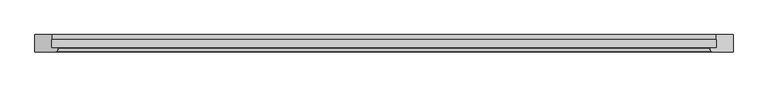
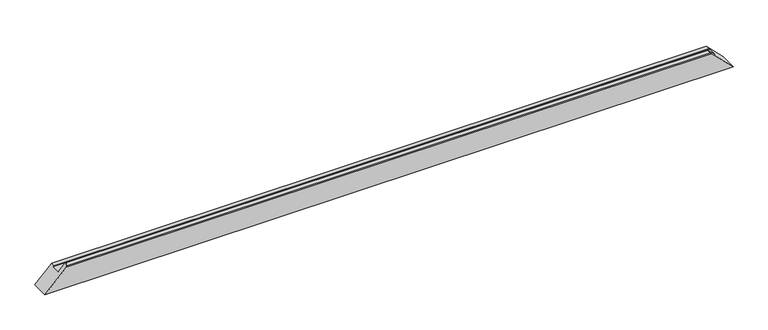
"""IFC4 building model written with IfcOpenShell, lengths in millimetres: proxy geometry, Weiku - Montante - Caixilho 02.2.01.005 : Weiku - Montante - Caixilho 02.2.01.005."""

from ifc_helpers import new_model, si_unit, frame, origin, place, context, project, spatial, ellipse_curve, source, transform, mapped, element, save
from ifc_brep_helpers import plane_surface, cylinder_surface, advanced_brep


def generic_models_e768f041(model_context):
    return source(origin(), model_context, "Body", "AdvancedBrep", [
        advanced_brep(
        [(-949.0, 12.5, 46.0), (-928.8909676, 12.5, 66.1090324), (928.8909676, 12.5, 66.1090324), (949.0, 12.5, 46.0), (-949.0, 37.8314286, 46.0), (949.0, 37.8314286, 46.0), (-946.0, 37.027581, 49.0), (946.0, 37.027581, 49.0), (-946.0, 50.0, 49.0), (946.0, 50.0, 49.0), (995.0, 50.0, 0.0), (-995.0, 50.0, 0.0), (995.0, 0.0, 0.0), (-995.0, 0.0, 0.0), (933.4997332, 0.0, 61.5002668), (-933.4997332, 0.0, 61.5002668), (-928.118227, 11.4929448, 66.881773), (-930.6019557, 2.2235429, 64.3980443), (930.6019557, 2.2235429, 64.3980443), (928.118227, 11.4929448, 66.881773)],
        [
            (0, 1),
            (1, 2),
            (2, 3),
            (3, 0),
            (4, 0),
            (3, 5),
            (5, 4),
            (6, 4),
            (5, 7),
            (7, 6),
            (8, 6),
            (7, 9),
            (9, 8),
            (10, 11),
            (11, 8),
            (9, 10),
            (10, 12),
            (12, 13),
            (13, 11),
            (12, 14),
            (14, 15),
            (15, 13),
            (16, 17),
            (17, 18),
            (18, 19),
            (19, 16),
            (15, 17, ellipse_curve(frame((-933.4997332, 3.0, 61.5002668), z_axis=(-0.707106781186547, 0.0, 0.707106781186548), x_axis=(-0.7071067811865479, 0.0, -0.707106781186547)), 4.2426407, 3.0)),
            (16, 1, ellipse_curve(frame((-928.8909676, 11.7, 66.1090324), z_axis=(-0.707106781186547, 0.0, 0.707106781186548), x_axis=(-0.7071067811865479, 0.0, -0.707106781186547)), 1.1313708, 0.8)),
            (2, 19, ellipse_curve(frame((928.8909676, 11.7, 66.1090324), z_axis=(0.7071067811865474, 0.0, 0.7071067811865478), x_axis=(-0.7071067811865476, 0.0, 0.7071067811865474)), 1.1313708, 0.8)),
            (18, 14, ellipse_curve(frame((933.4997332, 3.0, 61.5002668), z_axis=(0.7071067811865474, 0.0, 0.7071067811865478), x_axis=(-0.7071067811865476, 0.0, 0.7071067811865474)), 4.2426407, 3.0)),
        ],
        [
            plane_surface(frame((-995.0, 12.5, 66.1090324), z_axis=(0.0, 1.0, 0.0), x_axis=(1.0, 0.0, 0.0))),
            plane_surface(frame((-995.0, 12.5, 46.0), z_axis=(0.0, 0.0, 1.0), x_axis=(1.0, 0.0, 0.0))),
            plane_surface(frame((-995.0, 37.8314286, 46.0), z_axis=(0.0, -0.9659258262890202, -0.2588190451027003), x_axis=(1.0, 0.0, 0.0))),
            plane_surface(frame((-995.0, 37.027581, 49.0), z_axis=(0.0, 0.0, 1.0), x_axis=(1.0, 0.0, 0.0))),
            plane_surface(frame((-995.0, 50.0, 49.0), z_axis=(0.0, 1.0, 0.0), x_axis=(1.0, 0.0, 0.0))),
            plane_surface(frame((-995.0, 50.0, 0.0), z_axis=(0.0, 0.0, -1.0), x_axis=(1.0, 0.0, 0.0))),
            plane_surface(frame((-995.0, 0.0, 0.0), z_axis=(0.0, -1.0, 0.0), x_axis=(1.0, 0.0, 0.0))),
            plane_surface(frame((-995.0, 2.2235429, 64.3980443), z_axis=(0.0, -0.2588190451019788, 0.9659258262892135), x_axis=(1.0, 0.0, 0.0))),
            plane_surface(frame((-1065.0, -15.0, -70.0), z_axis=(-0.707106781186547, 0.0, 0.707106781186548), x_axis=(0.0, 1.0, 0.0))),
            plane_surface(frame((925.0, -15.0, 70.0), z_axis=(0.7071067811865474, 0.0, 0.7071067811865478), x_axis=(0.0, 1.0, 0.0))),
            cylinder_surface(frame((-995.0, 11.7, 66.1090324), z_axis=(-1.0, 0.0, 0.0), x_axis=(0.0, 1.0, 0.0)), 0.8),
            cylinder_surface(frame((-995.0, 3.0, 61.5002668), z_axis=(-1.0, 0.0, 0.0), x_axis=(0.0, 1.0, 0.0)), 3.0),
        ],
        [
            (0, [[1, 2, 3, 4]]),
            (1, [[5, -4, 6, 7]]),
            (2, [[8, -7, 9, 10]]),
            (3, [[11, -10, 12, 13]]),
            (4, [[14, 15, -13, 16]]),
            (5, [[-14, 17, 18, 19]]),
            (6, [[-18, 20, 21, 22]]),
            (7, [[23, 24, 25, 26]]),
            (8, [[-1, -5, -8, -11, -15, -19, -22, 27, -23, 28]]),
            (9, [[-3, 29, -25, 30, -20, -17, -16, -12, -9, -6]]),
            (10, [[-28, -26, -29, -2]]),
            (11, [[-27, -21, -30, -24]]),
        ],
    ),
    ])


if __name__ == "__main__":
    model = new_model("IFC4")
    model_context = context("Model", 3, world=origin())
    ifc_project = project(units=[si_unit("LENGTHUNIT", "METRE", prefix="MILLI")], contexts=[model_context])
    site = spatial("IfcSite", under=ifc_project)
    building = spatial("IfcBuilding", under=site)
    placement = place(None, origin())
    generic_models_shape = generic_models_e768f041(model_context)
    element("IfcBuildingElementProxy", 1, Name="Weiku - Montante - Caixilho 02.2.01.005 : Weiku - Montante - Caixilho 02.2.01.005", ObjectType="Weiku - Montante - Caixilho 02.2.01.005 : Weiku - Montante - Caixilho 02.2.01.005", at=placement, inside=building, context=model_context, shape_type="MappedRepresentation", body=[
        mapped(generic_models_shape, transform((0.0, 0.0, 0.0), x_axis=(1.0, 0.0, 0.0), y_axis=(0.0, 1.0, 0.0), z_axis=(0.0, 0.0, 1.0))),
    ])
    save(model, "model.ifc")
